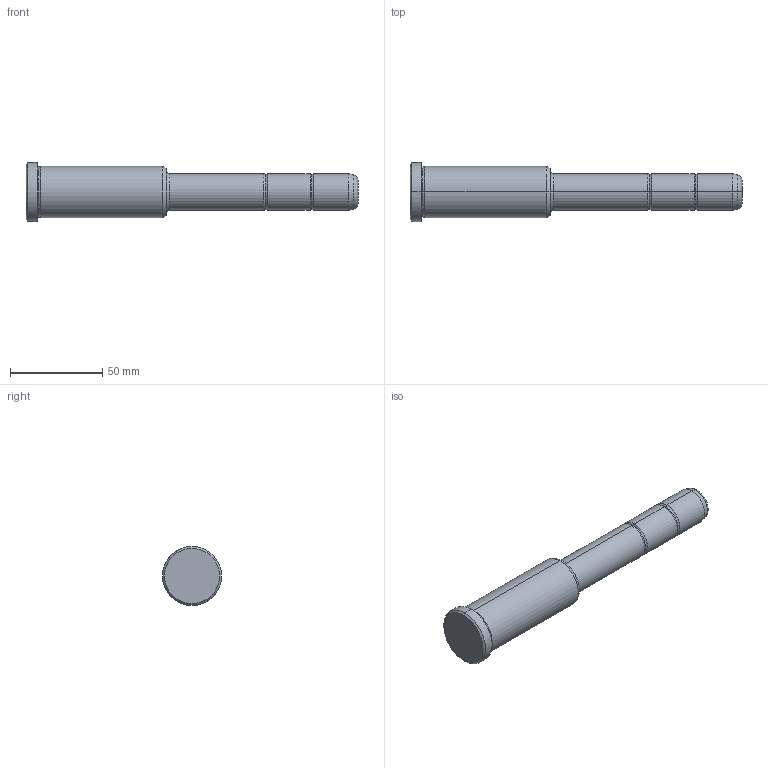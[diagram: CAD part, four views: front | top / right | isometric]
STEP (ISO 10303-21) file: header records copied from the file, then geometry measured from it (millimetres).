
FILE_DESCRIPTION(('CATIA V5 STEP Exchange'),'2;1');
FILE_NAME('C:\Users\Utente\Desktop\IO LAVORO\3D X SITO CF\X SITO\PLASTICA\351\351-20X76X180.stp','2021-08-27T13:08:51+00:00',('none'),('none'),'CATIA Version 5 Release 20 GA (IN-10)','CATIA V5 STEP AP203','none');
FILE_SCHEMA(('CONFIG_CONTROL_DESIGN'));
Length unit declared in the file: millimetre
Products named in the file (1): 351-20X76X180
Bounding box: 180 x 32 x 32 mm (x, y, z)
Volume: 80108.5 mm3; surface area: 14637.8 mm2
Topology: 1 solids, 1 shells, 36 faces, 102 edges, 70 vertices
Faces by surface type: torus 16, cylinder 10, cone 6, plane 4
Entity records: 1292 total; most frequent: CARTESIAN_POINT 321, ORIENTED_EDGE 204, DIRECTION 166, AXIS2_PLACEMENT_3D 115, EDGE_CURVE 102, CIRCLE 78, VERTEX_POINT 70, EDGE_LOOP 38
